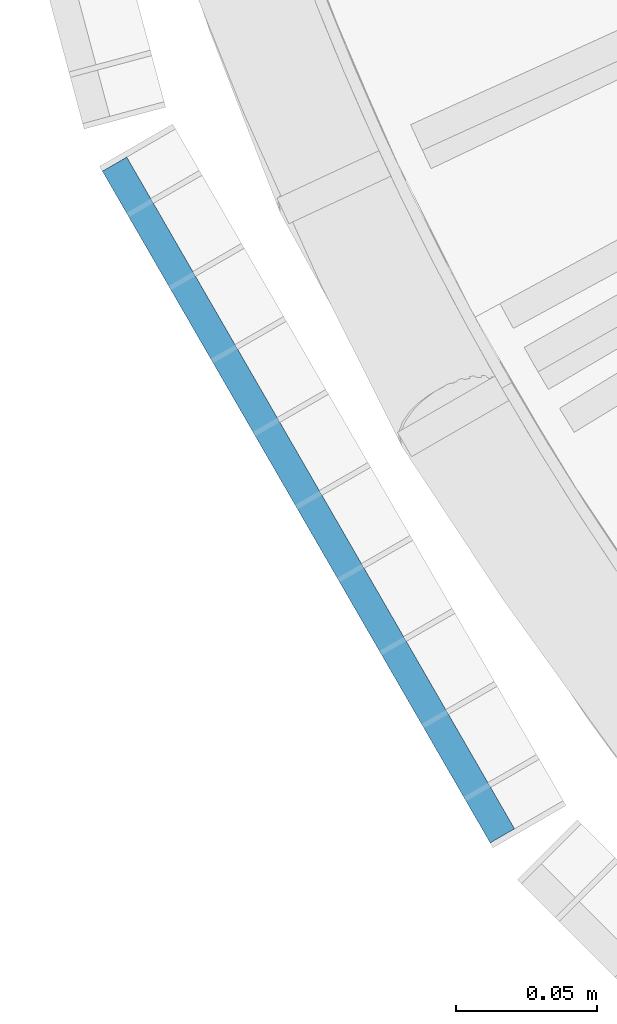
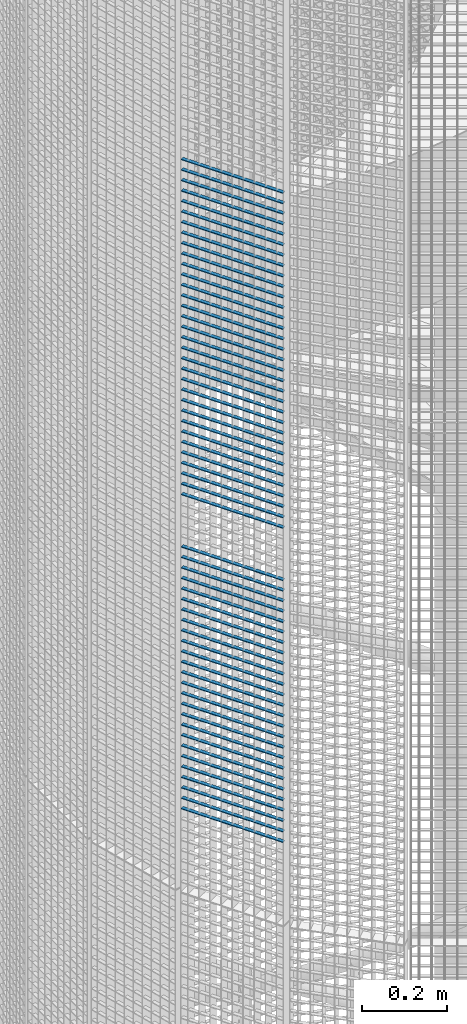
# One storey, part 120 of 1148: 59 beams, 1 element without a shape of its own.
"""IFC2X3 building model written with IfcOpenShell, lengths in millimetres."""

from ifc_helpers import new_model, si_unit, frame, origin_with_axes, origin_2d_with_axis, place, context, subcontext, project, spatial, rectangle, extrude, material, type_object, element, aggregate, save


model = new_model("IFC2X3")

# Units and contexts
model_context = context("Model", 3, precision=1e-05, world=origin_with_axes())
body_context = subcontext(model_context, "Body", "Model", "MODEL_VIEW")
ifc_project = project(units=[si_unit("LENGTHUNIT", "METRE", prefix="MILLI"), si_unit("AREAUNIT", "SQUARE_METRE"), si_unit("VOLUMEUNIT", "CUBIC_METRE"), si_unit("MASSUNIT", "GRAM", prefix="KILO"), si_unit("TIMEUNIT", "SECOND"), si_unit("PLANEANGLEUNIT", "RADIAN"), si_unit("SOLIDANGLEUNIT", "STERADIAN"), si_unit("THERMODYNAMICTEMPERATUREUNIT", "DEGREE_CELSIUS"), si_unit("LUMINOUSINTENSITYUNIT", "LUMEN")], contexts=[model_context])

# Site, building, storey
site_placement = place(None, origin_with_axes())
site = spatial("IfcSite", under=ifc_project, at=site_placement, Name="Undefined", CompositionType="ELEMENT")
building_placement = place(site_placement, origin_with_axes())
building = spatial("IfcBuilding", under=site, at=building_placement, Name="Undefined", CompositionType="ELEMENT")
storey_placement = place(building_placement, origin_with_axes())
storey = spatial("IfcBuildingStorey", under=building, at=storey_placement, Name="Undefined", CompositionType="ELEMENT", Elevation=0.0)

# Assembly, beams
assembly_placement = place(storey_placement, origin_with_axes())
assembly = element("IfcElementAssembly", 1, at=assembly_placement, inside=storey, Name="BORDURE", AssemblyPlace="NOTDEFINED", PredefinedType="NOTDEFINED")
ifc_material = material(Name="STEEL/S235JR")
beam_type = type_object("IfcBeamType", Name="PL2*10", PredefinedType="NOTDEFINED")
beam_1_placement = place(assembly_placement, frame((-1033.29996828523, -437.231955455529, 8100.0), z_axis=(-0.866025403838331, -0.499999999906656, 0.0), x_axis=(0.499999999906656, -0.866025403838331, 0.0)))
beam_1 = element("IfcBeam", 2, at=beam_1_placement, type_object=beam_type, material=ifc_material, Name="ENTRETOISE", context=body_context, shape_type="SweptSolid", body=[
    extrude(rectangle(XDim=2.0, YDim=10.0, at=origin_2d_with_axis()), frame((275.999999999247, 9.09494701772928e-13, 1.53210777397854e-14), z_axis=(-1.0, 0.0, 0.0), x_axis=(0.0, -1.0, 0.0)), (0.0, 0.0, 1.0), 276.0),
])
beam_2_placement = place(assembly_placement, frame((-1033.29996828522, -437.231955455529, 8070.0), z_axis=(-0.866025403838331, -0.499999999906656, 0.0), x_axis=(0.499999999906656, -0.866025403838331, 0.0)))
beam_2 = element("IfcBeam", 3, at=beam_2_placement, type_object=beam_type, material=ifc_material, Name="ENTRETOISE", context=body_context, shape_type="SweptSolid", body=[
    extrude(rectangle(XDim=2.0, YDim=10.0, at=origin_2d_with_axis()), frame((275.999999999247, 9.09494701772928e-13, 1.53210777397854e-14), z_axis=(-1.0, 0.0, 0.0), x_axis=(0.0, -1.0, 0.0)), (0.0, 0.0, 1.0), 276.0),
])
beam_3_placement = place(assembly_placement, frame((-1033.29996828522, -437.231955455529, 8040.0), z_axis=(-0.866025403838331, -0.499999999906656, 0.0), x_axis=(0.499999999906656, -0.866025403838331, 0.0)))
beam_3 = element("IfcBeam", 4, at=beam_3_placement, type_object=beam_type, material=ifc_material, Name="ENTRETOISE", context=body_context, shape_type="SweptSolid", body=[
    extrude(rectangle(XDim=2.0, YDim=10.0, at=origin_2d_with_axis()), frame((275.999999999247, 9.09494701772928e-13, 1.53210777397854e-14), z_axis=(-1.0, 0.0, 0.0), x_axis=(0.0, -1.0, 0.0)), (0.0, 0.0, 1.0), 276.0),
])
beam_4_placement = place(assembly_placement, frame((-1033.29996828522, -437.231955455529, 8010.0), z_axis=(-0.866025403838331, -0.499999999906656, 0.0), x_axis=(0.499999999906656, -0.866025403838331, 0.0)))
beam_4 = element("IfcBeam", 5, at=beam_4_placement, type_object=beam_type, material=ifc_material, Name="ENTRETOISE", context=body_context, shape_type="SweptSolid", body=[
    extrude(rectangle(XDim=2.0, YDim=10.0, at=origin_2d_with_axis()), frame((275.999999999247, 9.09494701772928e-13, 1.53210777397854e-14), z_axis=(-1.0, 0.0, 0.0), x_axis=(0.0, -1.0, 0.0)), (0.0, 0.0, 1.0), 276.0),
])
beam_5_placement = place(assembly_placement, frame((-1033.29996828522, -437.231955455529, 7980.0), z_axis=(-0.866025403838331, -0.499999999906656, 0.0), x_axis=(0.499999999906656, -0.866025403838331, 0.0)))
beam_5 = element("IfcBeam", 6, at=beam_5_placement, type_object=beam_type, material=ifc_material, Name="ENTRETOISE", context=body_context, shape_type="SweptSolid", body=[
    extrude(rectangle(XDim=2.0, YDim=10.0, at=origin_2d_with_axis()), frame((275.999999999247, 9.09494701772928e-13, 1.53210777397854e-14), z_axis=(-1.0, 0.0, 0.0), x_axis=(0.0, -1.0, 0.0)), (0.0, 0.0, 1.0), 276.0),
])
beam_6_placement = place(assembly_placement, frame((-1033.29996828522, -437.231955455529, 7950.0), z_axis=(-0.866025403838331, -0.499999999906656, 0.0), x_axis=(0.499999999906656, -0.866025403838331, 0.0)))
beam_6 = element("IfcBeam", 7, at=beam_6_placement, type_object=beam_type, material=ifc_material, Name="ENTRETOISE", context=body_context, shape_type="SweptSolid", body=[
    extrude(rectangle(XDim=2.0, YDim=10.0, at=origin_2d_with_axis()), frame((275.999999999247, 9.09494701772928e-13, 1.53210777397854e-14), z_axis=(-1.0, 0.0, 0.0), x_axis=(0.0, -1.0, 0.0)), (0.0, 0.0, 1.0), 276.0),
])
beam_7_placement = place(assembly_placement, frame((-1033.29996828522, -437.231955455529, 7920.0), z_axis=(-0.866025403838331, -0.499999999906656, 0.0), x_axis=(0.499999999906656, -0.866025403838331, 0.0)))
beam_7 = element("IfcBeam", 8, at=beam_7_placement, type_object=beam_type, material=ifc_material, Name="ENTRETOISE", context=body_context, shape_type="SweptSolid", body=[
    extrude(rectangle(XDim=2.0, YDim=10.0, at=origin_2d_with_axis()), frame((275.999999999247, 9.09494701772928e-13, 1.53210777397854e-14), z_axis=(-1.0, 0.0, 0.0), x_axis=(0.0, -1.0, 0.0)), (0.0, 0.0, 1.0), 276.0),
])
beam_8_placement = place(assembly_placement, frame((-1033.29996828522, -437.231955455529, 7890.0), z_axis=(-0.866025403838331, -0.499999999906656, 0.0), x_axis=(0.499999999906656, -0.866025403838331, 0.0)))
beam_8 = element("IfcBeam", 9, at=beam_8_placement, type_object=beam_type, material=ifc_material, Name="ENTRETOISE", context=body_context, shape_type="SweptSolid", body=[
    extrude(rectangle(XDim=2.0, YDim=10.0, at=origin_2d_with_axis()), frame((275.999999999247, 9.09494701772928e-13, 1.53210777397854e-14), z_axis=(-1.0, 0.0, 0.0), x_axis=(0.0, -1.0, 0.0)), (0.0, 0.0, 1.0), 276.0),
])
beam_9_placement = place(assembly_placement, frame((-1033.29996828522, -437.23195545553, 7860.0), z_axis=(-0.866025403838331, -0.499999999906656, 0.0), x_axis=(0.499999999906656, -0.866025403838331, 0.0)))
beam_9 = element("IfcBeam", 10, at=beam_9_placement, type_object=beam_type, material=ifc_material, Name="ENTRETOISE", context=body_context, shape_type="SweptSolid", body=[
    extrude(rectangle(XDim=2.0, YDim=10.0, at=origin_2d_with_axis()), frame((275.999999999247, 9.09494701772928e-13, 1.53210777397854e-14), z_axis=(-1.0, 0.0, 0.0), x_axis=(0.0, -1.0, 0.0)), (0.0, 0.0, 1.0), 276.0),
])
beam_10_placement = place(assembly_placement, frame((-1033.29996828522, -437.23195545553, 7830.0), z_axis=(-0.866025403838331, -0.499999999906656, 0.0), x_axis=(0.499999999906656, -0.866025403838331, 0.0)))
beam_10 = element("IfcBeam", 11, at=beam_10_placement, type_object=beam_type, material=ifc_material, Name="ENTRETOISE", context=body_context, shape_type="SweptSolid", body=[
    extrude(rectangle(XDim=2.0, YDim=10.0, at=origin_2d_with_axis()), frame((275.999999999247, 9.09494701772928e-13, 1.53210777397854e-14), z_axis=(-1.0, 0.0, 0.0), x_axis=(0.0, -1.0, 0.0)), (0.0, 0.0, 1.0), 276.0),
])
beam_11_placement = place(assembly_placement, frame((-1033.29996828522, -437.23195545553, 7800.0), z_axis=(-0.866025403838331, -0.499999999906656, 0.0), x_axis=(0.499999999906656, -0.866025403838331, 0.0)))
beam_11 = element("IfcBeam", 12, at=beam_11_placement, type_object=beam_type, material=ifc_material, Name="ENTRETOISE", context=body_context, shape_type="SweptSolid", body=[
    extrude(rectangle(XDim=2.0, YDim=10.0, at=origin_2d_with_axis()), frame((275.999999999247, 9.09494701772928e-13, 1.53210777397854e-14), z_axis=(-1.0, 0.0, 0.0), x_axis=(0.0, -1.0, 0.0)), (0.0, 0.0, 1.0), 276.0),
])
beam_12_placement = place(assembly_placement, frame((-1033.29996828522, -437.23195545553, 7770.0), z_axis=(-0.866025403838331, -0.499999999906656, 0.0), x_axis=(0.499999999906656, -0.866025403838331, 0.0)))
beam_12 = element("IfcBeam", 13, at=beam_12_placement, type_object=beam_type, material=ifc_material, Name="ENTRETOISE", context=body_context, shape_type="SweptSolid", body=[
    extrude(rectangle(XDim=2.0, YDim=10.0, at=origin_2d_with_axis()), frame((275.999999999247, 9.09494701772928e-13, 1.53210777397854e-14), z_axis=(-1.0, 0.0, 0.0), x_axis=(0.0, -1.0, 0.0)), (0.0, 0.0, 1.0), 276.0),
])
beam_13_placement = place(assembly_placement, frame((-1033.29996828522, -437.23195545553, 7740.0), z_axis=(-0.866025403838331, -0.499999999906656, 0.0), x_axis=(0.499999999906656, -0.866025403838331, 0.0)))
beam_13 = element("IfcBeam", 14, at=beam_13_placement, type_object=beam_type, material=ifc_material, Name="ENTRETOISE", context=body_context, shape_type="SweptSolid", body=[
    extrude(rectangle(XDim=2.0, YDim=10.0, at=origin_2d_with_axis()), frame((275.999999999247, 9.09494701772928e-13, 1.53210777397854e-14), z_axis=(-1.0, 0.0, 0.0), x_axis=(0.0, -1.0, 0.0)), (0.0, 0.0, 1.0), 276.0),
])
beam_14_placement = place(assembly_placement, frame((-1033.29996828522, -437.23195545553, 7710.0), z_axis=(-0.866025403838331, -0.499999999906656, 0.0), x_axis=(0.499999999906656, -0.866025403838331, 0.0)))
beam_14 = element("IfcBeam", 15, at=beam_14_placement, type_object=beam_type, material=ifc_material, Name="ENTRETOISE", context=body_context, shape_type="SweptSolid", body=[
    extrude(rectangle(XDim=2.0, YDim=10.0, at=origin_2d_with_axis()), frame((275.999999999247, 9.09494701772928e-13, 1.53210777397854e-14), z_axis=(-1.0, 0.0, 0.0), x_axis=(0.0, -1.0, 0.0)), (0.0, 0.0, 1.0), 276.0),
])
beam_15_placement = place(assembly_placement, frame((-1033.29996828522, -437.23195545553, 7680.0), z_axis=(-0.866025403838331, -0.499999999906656, 0.0), x_axis=(0.499999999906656, -0.866025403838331, 0.0)))
beam_15 = element("IfcBeam", 16, at=beam_15_placement, type_object=beam_type, material=ifc_material, Name="ENTRETOISE", context=body_context, shape_type="SweptSolid", body=[
    extrude(rectangle(XDim=2.0, YDim=10.0, at=origin_2d_with_axis()), frame((275.999999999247, 9.09494701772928e-13, 1.53210777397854e-14), z_axis=(-1.0, 0.0, 0.0), x_axis=(0.0, -1.0, 0.0)), (0.0, 0.0, 1.0), 276.0),
])
beam_16_placement = place(assembly_placement, frame((-1033.29996828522, -437.23195545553, 7650.0), z_axis=(-0.866025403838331, -0.499999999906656, 0.0), x_axis=(0.499999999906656, -0.866025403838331, 0.0)))
beam_16 = element("IfcBeam", 17, at=beam_16_placement, type_object=beam_type, material=ifc_material, Name="ENTRETOISE", context=body_context, shape_type="SweptSolid", body=[
    extrude(rectangle(XDim=2.0, YDim=10.0, at=origin_2d_with_axis()), frame((275.999999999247, 9.09494701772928e-13, 1.53210777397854e-14), z_axis=(-1.0, 0.0, 0.0), x_axis=(0.0, -1.0, 0.0)), (0.0, 0.0, 1.0), 276.0),
])
beam_17_placement = place(assembly_placement, frame((-1033.29996828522, -437.23195545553, 7620.0), z_axis=(-0.866025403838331, -0.499999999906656, 0.0), x_axis=(0.499999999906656, -0.866025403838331, 0.0)))
beam_17 = element("IfcBeam", 18, at=beam_17_placement, type_object=beam_type, material=ifc_material, Name="ENTRETOISE", context=body_context, shape_type="SweptSolid", body=[
    extrude(rectangle(XDim=2.0, YDim=10.0, at=origin_2d_with_axis()), frame((275.999999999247, 9.09494701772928e-13, 1.53210777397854e-14), z_axis=(-1.0, 0.0, 0.0), x_axis=(0.0, -1.0, 0.0)), (0.0, 0.0, 1.0), 276.0),
])
beam_18_placement = place(assembly_placement, frame((-1033.29996828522, -437.23195545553, 7590.0), z_axis=(-0.866025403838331, -0.499999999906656, 0.0), x_axis=(0.499999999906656, -0.866025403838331, 0.0)))
beam_18 = element("IfcBeam", 19, at=beam_18_placement, type_object=beam_type, material=ifc_material, Name="ENTRETOISE", context=body_context, shape_type="SweptSolid", body=[
    extrude(rectangle(XDim=2.0, YDim=10.0, at=origin_2d_with_axis()), frame((275.999999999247, 9.09494701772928e-13, 1.53210777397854e-14), z_axis=(-1.0, 0.0, 0.0), x_axis=(0.0, -1.0, 0.0)), (0.0, 0.0, 1.0), 276.0),
])
beam_19_placement = place(assembly_placement, frame((-1033.29996828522, -437.23195545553, 7560.0), z_axis=(-0.866025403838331, -0.499999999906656, 0.0), x_axis=(0.499999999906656, -0.866025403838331, 0.0)))
beam_19 = element("IfcBeam", 20, at=beam_19_placement, type_object=beam_type, material=ifc_material, Name="ENTRETOISE", context=body_context, shape_type="SweptSolid", body=[
    extrude(rectangle(XDim=2.0, YDim=10.0, at=origin_2d_with_axis()), frame((275.999999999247, 9.09494701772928e-13, 1.53210777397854e-14), z_axis=(-1.0, 0.0, 0.0), x_axis=(0.0, -1.0, 0.0)), (0.0, 0.0, 1.0), 276.0),
])
beam_20_placement = place(assembly_placement, frame((-1033.29996828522, -437.23195545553, 7530.0), z_axis=(-0.866025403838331, -0.499999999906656, 0.0), x_axis=(0.499999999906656, -0.866025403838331, 0.0)))
beam_20 = element("IfcBeam", 21, at=beam_20_placement, type_object=beam_type, material=ifc_material, Name="ENTRETOISE", context=body_context, shape_type="SweptSolid", body=[
    extrude(rectangle(XDim=2.0, YDim=10.0, at=origin_2d_with_axis()), frame((275.999999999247, 9.09494701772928e-13, 1.53210777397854e-14), z_axis=(-1.0, 0.0, 0.0), x_axis=(0.0, -1.0, 0.0)), (0.0, 0.0, 1.0), 276.0),
])
beam_21_placement = place(assembly_placement, frame((-1033.29996828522, -437.231955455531, 7500.0), z_axis=(-0.866025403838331, -0.499999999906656, 0.0), x_axis=(0.499999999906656, -0.866025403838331, 0.0)))
beam_21 = element("IfcBeam", 22, at=beam_21_placement, type_object=beam_type, material=ifc_material, Name="ENTRETOISE", context=body_context, shape_type="SweptSolid", body=[
    extrude(rectangle(XDim=2.0, YDim=10.0, at=origin_2d_with_axis()), frame((275.999999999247, 9.09494701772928e-13, 1.53210777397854e-14), z_axis=(-1.0, 0.0, 0.0), x_axis=(0.0, -1.0, 0.0)), (0.0, 0.0, 1.0), 276.0),
])
beam_22_placement = place(assembly_placement, frame((-1033.29996828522, -437.231955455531, 7470.0), z_axis=(-0.866025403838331, -0.499999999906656, 0.0), x_axis=(0.499999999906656, -0.866025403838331, 0.0)))
beam_22 = element("IfcBeam", 23, at=beam_22_placement, type_object=beam_type, material=ifc_material, Name="ENTRETOISE", context=body_context, shape_type="SweptSolid", body=[
    extrude(rectangle(XDim=2.0, YDim=10.0, at=origin_2d_with_axis()), frame((275.999999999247, 9.09494701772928e-13, 1.53210777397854e-14), z_axis=(-1.0, 0.0, 0.0), x_axis=(0.0, -1.0, 0.0)), (0.0, 0.0, 1.0), 276.0),
])
beam_23_placement = place(assembly_placement, frame((-1033.29996828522, -437.231955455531, 7440.0), z_axis=(-0.866025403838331, -0.499999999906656, 0.0), x_axis=(0.499999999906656, -0.866025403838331, 0.0)))
beam_23 = element("IfcBeam", 24, at=beam_23_placement, type_object=beam_type, material=ifc_material, Name="ENTRETOISE", context=body_context, shape_type="SweptSolid", body=[
    extrude(rectangle(XDim=2.0, YDim=10.0, at=origin_2d_with_axis()), frame((275.999999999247, 9.09494701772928e-13, 1.53210777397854e-14), z_axis=(-1.0, 0.0, 0.0), x_axis=(0.0, -1.0, 0.0)), (0.0, 0.0, 1.0), 276.0),
])
beam_24_placement = place(assembly_placement, frame((-1033.29996828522, -437.231955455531, 7410.0), z_axis=(-0.866025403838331, -0.499999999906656, 0.0), x_axis=(0.499999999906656, -0.866025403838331, 0.0)))
beam_24 = element("IfcBeam", 25, at=beam_24_placement, type_object=beam_type, material=ifc_material, Name="ENTRETOISE", context=body_context, shape_type="SweptSolid", body=[
    extrude(rectangle(XDim=2.0, YDim=10.0, at=origin_2d_with_axis()), frame((275.999999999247, 9.09494701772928e-13, 1.53210777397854e-14), z_axis=(-1.0, 0.0, 0.0), x_axis=(0.0, -1.0, 0.0)), (0.0, 0.0, 1.0), 276.0),
])
beam_25_placement = place(assembly_placement, frame((-1033.29996828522, -437.231955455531, 7380.0), z_axis=(-0.866025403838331, -0.499999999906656, 0.0), x_axis=(0.499999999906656, -0.866025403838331, 0.0)))
beam_25 = element("IfcBeam", 26, at=beam_25_placement, type_object=beam_type, material=ifc_material, Name="ENTRETOISE", context=body_context, shape_type="SweptSolid", body=[
    extrude(rectangle(XDim=2.0, YDim=10.0, at=origin_2d_with_axis()), frame((275.999999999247, 9.09494701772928e-13, 1.53210777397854e-14), z_axis=(-1.0, 0.0, 0.0), x_axis=(0.0, -1.0, 0.0)), (0.0, 0.0, 1.0), 276.0),
])
beam_26_placement = place(assembly_placement, frame((-1033.29996828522, -437.231955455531, 7350.0), z_axis=(-0.866025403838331, -0.499999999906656, 0.0), x_axis=(0.499999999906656, -0.866025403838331, 0.0)))
beam_26 = element("IfcBeam", 27, at=beam_26_placement, type_object=beam_type, material=ifc_material, Name="ENTRETOISE", context=body_context, shape_type="SweptSolid", body=[
    extrude(rectangle(XDim=2.0, YDim=10.0, at=origin_2d_with_axis()), frame((275.999999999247, 9.09494701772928e-13, 1.53210777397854e-14), z_axis=(-1.0, 0.0, 0.0), x_axis=(0.0, -1.0, 0.0)), (0.0, 0.0, 1.0), 276.0),
])
beam_27_placement = place(assembly_placement, frame((-1033.29996828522, -437.231955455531, 7320.0), z_axis=(-0.866025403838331, -0.499999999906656, 0.0), x_axis=(0.499999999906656, -0.866025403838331, 0.0)))
beam_27 = element("IfcBeam", 28, at=beam_27_placement, type_object=beam_type, material=ifc_material, Name="ENTRETOISE", context=body_context, shape_type="SweptSolid", body=[
    extrude(rectangle(XDim=2.0, YDim=10.0, at=origin_2d_with_axis()), frame((275.999999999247, 9.09494701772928e-13, 1.53210777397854e-14), z_axis=(-1.0, 0.0, 0.0), x_axis=(0.0, -1.0, 0.0)), (0.0, 0.0, 1.0), 276.0),
])
beam_28_placement = place(assembly_placement, frame((-1033.29996828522, -437.231955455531, 7290.0), z_axis=(-0.866025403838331, -0.499999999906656, 0.0), x_axis=(0.499999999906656, -0.866025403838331, 0.0)))
beam_28 = element("IfcBeam", 29, at=beam_28_placement, type_object=beam_type, material=ifc_material, Name="ENTRETOISE", context=body_context, shape_type="SweptSolid", body=[
    extrude(rectangle(XDim=2.0, YDim=10.0, at=origin_2d_with_axis()), frame((275.999999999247, 9.09494701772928e-13, 1.53210777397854e-14), z_axis=(-1.0, 0.0, 0.0), x_axis=(0.0, -1.0, 0.0)), (0.0, 0.0, 1.0), 276.0),
])
beam_29_placement = place(assembly_placement, frame((-1033.29996828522, -437.231955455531, 7260.0), z_axis=(-0.866025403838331, -0.499999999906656, 0.0), x_axis=(0.499999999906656, -0.866025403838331, 0.0)))
beam_29 = element("IfcBeam", 30, at=beam_29_placement, type_object=beam_type, material=ifc_material, Name="ENTRETOISE", context=body_context, shape_type="SweptSolid", body=[
    extrude(rectangle(XDim=2.0, YDim=10.0, at=origin_2d_with_axis()), frame((275.999999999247, 9.09494701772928e-13, 1.53210777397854e-14), z_axis=(-1.0, 0.0, 0.0), x_axis=(0.0, -1.0, 0.0)), (0.0, 0.0, 1.0), 276.0),
])
beam_30_placement = place(assembly_placement, frame((-1033.29996828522, -437.231955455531, 7230.0), z_axis=(-0.866025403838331, -0.499999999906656, 0.0), x_axis=(0.499999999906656, -0.866025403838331, 0.0)))
beam_30 = element("IfcBeam", 31, at=beam_30_placement, type_object=beam_type, material=ifc_material, Name="ENTRETOISE", context=body_context, shape_type="SweptSolid", body=[
    extrude(rectangle(XDim=2.0, YDim=10.0, at=origin_2d_with_axis()), frame((275.999999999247, 9.09494701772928e-13, 1.53210777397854e-14), z_axis=(-1.0, 0.0, 0.0), x_axis=(0.0, -1.0, 0.0)), (0.0, 0.0, 1.0), 276.0),
])
beam_31_placement = place(assembly_placement, frame((-1033.29996828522, -437.231955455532, 7200.0), z_axis=(-0.866025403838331, -0.499999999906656, 0.0), x_axis=(0.499999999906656, -0.866025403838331, 0.0)))
beam_31 = element("IfcBeam", 32, at=beam_31_placement, type_object=beam_type, material=ifc_material, Name="ENTRETOISE", context=body_context, shape_type="SweptSolid", body=[
    extrude(rectangle(XDim=2.0, YDim=10.0, at=origin_2d_with_axis()), frame((275.999999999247, 9.09494701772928e-13, 1.53210777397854e-14), z_axis=(-1.0, 0.0, 0.0), x_axis=(0.0, -1.0, 0.0)), (0.0, 0.0, 1.0), 276.0),
])
beam_32_placement = place(assembly_placement, frame((-1033.29996828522, -437.231955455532, 7170.0), z_axis=(-0.866025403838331, -0.499999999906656, 0.0), x_axis=(0.499999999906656, -0.866025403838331, 0.0)))
beam_32 = element("IfcBeam", 33, at=beam_32_placement, type_object=beam_type, material=ifc_material, Name="ENTRETOISE", context=body_context, shape_type="SweptSolid", body=[
    extrude(rectangle(XDim=2.0, YDim=10.0, at=origin_2d_with_axis()), frame((275.999999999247, 9.09494701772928e-13, 1.53210777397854e-14), z_axis=(-1.0, 0.0, 0.0), x_axis=(0.0, -1.0, 0.0)), (0.0, 0.0, 1.0), 276.0),
])
beam_33_placement = place(assembly_placement, frame((-1033.29996828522, -437.231955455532, 7140.0), z_axis=(-0.866025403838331, -0.499999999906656, 0.0), x_axis=(0.499999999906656, -0.866025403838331, 0.0)))
beam_33 = element("IfcBeam", 34, at=beam_33_placement, type_object=beam_type, material=ifc_material, Name="ENTRETOISE", context=body_context, shape_type="SweptSolid", body=[
    extrude(rectangle(XDim=2.0, YDim=10.0, at=origin_2d_with_axis()), frame((275.999999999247, 9.09494701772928e-13, 1.53210777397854e-14), z_axis=(-1.0, 0.0, 0.0), x_axis=(0.0, -1.0, 0.0)), (0.0, 0.0, 1.0), 276.0),
])
beam_34_placement = place(assembly_placement, frame((-1033.29996828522, -437.231955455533, 6720.0), z_axis=(-0.866025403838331, -0.499999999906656, 0.0), x_axis=(0.499999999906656, -0.866025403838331, 0.0)))
beam_34 = element("IfcBeam", 35, at=beam_34_placement, type_object=beam_type, material=ifc_material, Name="ENTRETOISE", context=body_context, shape_type="SweptSolid", body=[
    extrude(rectangle(XDim=2.0, YDim=10.0, at=origin_2d_with_axis()), frame((275.999999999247, 9.09494701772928e-13, 1.53210777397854e-14), z_axis=(-1.0, 0.0, 0.0), x_axis=(0.0, -1.0, 0.0)), (0.0, 0.0, 1.0), 276.0),
])
beam_35_placement = place(assembly_placement, frame((-1033.29996828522, -437.231955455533, 6690.0), z_axis=(-0.866025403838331, -0.499999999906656, 0.0), x_axis=(0.499999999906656, -0.866025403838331, 0.0)))
beam_35 = element("IfcBeam", 36, at=beam_35_placement, type_object=beam_type, material=ifc_material, Name="ENTRETOISE", context=body_context, shape_type="SweptSolid", body=[
    extrude(rectangle(XDim=2.0, YDim=10.0, at=origin_2d_with_axis()), frame((275.999999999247, 9.09494701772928e-13, 1.53210777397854e-14), z_axis=(-1.0, 0.0, 0.0), x_axis=(0.0, -1.0, 0.0)), (0.0, 0.0, 1.0), 276.0),
])
beam_36_placement = place(assembly_placement, frame((-1033.29996828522, -437.231955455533, 6750.0), z_axis=(-0.866025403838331, -0.499999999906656, 0.0), x_axis=(0.499999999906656, -0.866025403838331, 0.0)))
beam_36 = element("IfcBeam", 37, at=beam_36_placement, type_object=beam_type, material=ifc_material, Name="ENTRETOISE", context=body_context, shape_type="SweptSolid", body=[
    extrude(rectangle(XDim=2.0, YDim=10.0, at=origin_2d_with_axis()), frame((275.999999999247, 9.09494701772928e-13, 1.53210777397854e-14), z_axis=(-1.0, 0.0, 0.0), x_axis=(0.0, -1.0, 0.0)), (0.0, 0.0, 1.0), 276.0),
])
beam_37_placement = place(assembly_placement, frame((-1033.29996828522, -437.231955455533, 6660.0), z_axis=(-0.866025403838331, -0.499999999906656, 0.0), x_axis=(0.499999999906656, -0.866025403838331, 0.0)))
beam_37 = element("IfcBeam", 38, at=beam_37_placement, type_object=beam_type, material=ifc_material, Name="ENTRETOISE", context=body_context, shape_type="SweptSolid", body=[
    extrude(rectangle(XDim=2.0, YDim=10.0, at=origin_2d_with_axis()), frame((275.999999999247, 9.09494701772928e-13, 1.53210777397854e-14), z_axis=(-1.0, 0.0, 0.0), x_axis=(0.0, -1.0, 0.0)), (0.0, 0.0, 1.0), 276.0),
])
beam_38_placement = place(assembly_placement, frame((-1033.29996828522, -437.231955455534, 6630.0), z_axis=(-0.866025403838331, -0.499999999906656, 0.0), x_axis=(0.499999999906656, -0.866025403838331, 0.0)))
beam_38 = element("IfcBeam", 39, at=beam_38_placement, type_object=beam_type, material=ifc_material, Name="ENTRETOISE", context=body_context, shape_type="SweptSolid", body=[
    extrude(rectangle(XDim=2.0, YDim=10.0, at=origin_2d_with_axis()), frame((275.999999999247, 9.09494701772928e-13, 1.53210777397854e-14), z_axis=(-1.0, 0.0, 0.0), x_axis=(0.0, -1.0, 0.0)), (0.0, 0.0, 1.0), 276.0),
])
beam_39_placement = place(assembly_placement, frame((-1033.29996828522, -437.231955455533, 6780.0), z_axis=(-0.866025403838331, -0.499999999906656, 0.0), x_axis=(0.499999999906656, -0.866025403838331, 0.0)))
beam_39 = element("IfcBeam", 40, at=beam_39_placement, type_object=beam_type, material=ifc_material, Name="ENTRETOISE", context=body_context, shape_type="SweptSolid", body=[
    extrude(rectangle(XDim=2.0, YDim=10.0, at=origin_2d_with_axis()), frame((275.999999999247, 9.09494701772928e-13, 1.53210777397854e-14), z_axis=(-1.0, 0.0, 0.0), x_axis=(0.0, -1.0, 0.0)), (0.0, 0.0, 1.0), 276.0),
])
beam_40_placement = place(assembly_placement, frame((-1033.29996828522, -437.231955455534, 6600.0), z_axis=(-0.866025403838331, -0.499999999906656, 0.0), x_axis=(0.499999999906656, -0.866025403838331, 0.0)))
beam_40 = element("IfcBeam", 41, at=beam_40_placement, type_object=beam_type, material=ifc_material, Name="ENTRETOISE", context=body_context, shape_type="SweptSolid", body=[
    extrude(rectangle(XDim=2.0, YDim=10.0, at=origin_2d_with_axis()), frame((275.999999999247, 9.09494701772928e-13, 1.53210777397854e-14), z_axis=(-1.0, 0.0, 0.0), x_axis=(0.0, -1.0, 0.0)), (0.0, 0.0, 1.0), 276.0),
])
beam_41_placement = place(assembly_placement, frame((-1033.29996828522, -437.231955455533, 6810.0), z_axis=(-0.866025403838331, -0.499999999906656, 0.0), x_axis=(0.499999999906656, -0.866025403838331, 0.0)))
beam_41 = element("IfcBeam", 42, at=beam_41_placement, type_object=beam_type, material=ifc_material, Name="ENTRETOISE", context=body_context, shape_type="SweptSolid", body=[
    extrude(rectangle(XDim=2.0, YDim=10.0, at=origin_2d_with_axis()), frame((275.999999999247, 9.09494701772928e-13, 1.53210777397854e-14), z_axis=(-1.0, 0.0, 0.0), x_axis=(0.0, -1.0, 0.0)), (0.0, 0.0, 1.0), 276.0),
])
beam_42_placement = place(assembly_placement, frame((-1033.29996828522, -437.231955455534, 6570.0), z_axis=(-0.866025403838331, -0.499999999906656, 0.0), x_axis=(0.499999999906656, -0.866025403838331, 0.0)))
beam_42 = element("IfcBeam", 43, at=beam_42_placement, type_object=beam_type, material=ifc_material, Name="ENTRETOISE", context=body_context, shape_type="SweptSolid", body=[
    extrude(rectangle(XDim=2.0, YDim=10.0, at=origin_2d_with_axis()), frame((275.999999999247, 9.09494701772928e-13, 1.53210777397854e-14), z_axis=(-1.0, 0.0, 0.0), x_axis=(0.0, -1.0, 0.0)), (0.0, 0.0, 1.0), 276.0),
])
beam_43_placement = place(assembly_placement, frame((-1033.29996828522, -437.231955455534, 6540.0), z_axis=(-0.866025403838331, -0.499999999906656, 0.0), x_axis=(0.499999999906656, -0.866025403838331, 0.0)))
beam_43 = element("IfcBeam", 44, at=beam_43_placement, type_object=beam_type, material=ifc_material, Name="ENTRETOISE", context=body_context, shape_type="SweptSolid", body=[
    extrude(rectangle(XDim=2.0, YDim=10.0, at=origin_2d_with_axis()), frame((275.999999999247, 9.09494701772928e-13, 1.53210777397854e-14), z_axis=(-1.0, 0.0, 0.0), x_axis=(0.0, -1.0, 0.0)), (0.0, 0.0, 1.0), 276.0),
])
beam_44_placement = place(assembly_placement, frame((-1033.29996828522, -437.231955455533, 6840.0), z_axis=(-0.866025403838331, -0.499999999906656, 0.0), x_axis=(0.499999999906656, -0.866025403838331, 0.0)))
beam_44 = element("IfcBeam", 45, at=beam_44_placement, type_object=beam_type, material=ifc_material, Name="ENTRETOISE", context=body_context, shape_type="SweptSolid", body=[
    extrude(rectangle(XDim=2.0, YDim=10.0, at=origin_2d_with_axis()), frame((275.999999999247, 9.09494701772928e-13, 1.53210777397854e-14), z_axis=(-1.0, 0.0, 0.0), x_axis=(0.0, -1.0, 0.0)), (0.0, 0.0, 1.0), 276.0),
])
beam_45_placement = place(assembly_placement, frame((-1033.29996828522, -437.231955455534, 6510.0), z_axis=(-0.866025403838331, -0.499999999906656, 0.0), x_axis=(0.499999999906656, -0.866025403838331, 0.0)))
beam_45 = element("IfcBeam", 46, at=beam_45_placement, type_object=beam_type, material=ifc_material, Name="ENTRETOISE", context=body_context, shape_type="SweptSolid", body=[
    extrude(rectangle(XDim=2.0, YDim=10.0, at=origin_2d_with_axis()), frame((275.999999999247, 9.09494701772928e-13, 1.53210777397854e-14), z_axis=(-1.0, 0.0, 0.0), x_axis=(0.0, -1.0, 0.0)), (0.0, 0.0, 1.0), 276.0),
])
beam_46_placement = place(assembly_placement, frame((-1033.29996828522, -437.231955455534, 6480.0), z_axis=(-0.866025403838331, -0.499999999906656, 0.0), x_axis=(0.499999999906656, -0.866025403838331, 0.0)))
beam_46 = element("IfcBeam", 47, at=beam_46_placement, type_object=beam_type, material=ifc_material, Name="ENTRETOISE", context=body_context, shape_type="SweptSolid", body=[
    extrude(rectangle(XDim=2.0, YDim=10.0, at=origin_2d_with_axis()), frame((275.999999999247, 9.09494701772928e-13, 1.53210777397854e-14), z_axis=(-1.0, 0.0, 0.0), x_axis=(0.0, -1.0, 0.0)), (0.0, 0.0, 1.0), 276.0),
])
beam_47_placement = place(assembly_placement, frame((-1033.29996828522, -437.231955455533, 6870.0), z_axis=(-0.866025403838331, -0.499999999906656, 0.0), x_axis=(0.499999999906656, -0.866025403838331, 0.0)))
beam_47 = element("IfcBeam", 48, at=beam_47_placement, type_object=beam_type, material=ifc_material, Name="ENTRETOISE", context=body_context, shape_type="SweptSolid", body=[
    extrude(rectangle(XDim=2.0, YDim=10.0, at=origin_2d_with_axis()), frame((275.999999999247, 9.09494701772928e-13, 1.53210777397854e-14), z_axis=(-1.0, 0.0, 0.0), x_axis=(0.0, -1.0, 0.0)), (0.0, 0.0, 1.0), 276.0),
])
beam_48_placement = place(assembly_placement, frame((-1033.29996828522, -437.231955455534, 6450.0), z_axis=(-0.866025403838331, -0.499999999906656, 0.0), x_axis=(0.499999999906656, -0.866025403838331, 0.0)))
beam_48 = element("IfcBeam", 49, at=beam_48_placement, type_object=beam_type, material=ifc_material, Name="ENTRETOISE", context=body_context, shape_type="SweptSolid", body=[
    extrude(rectangle(XDim=2.0, YDim=10.0, at=origin_2d_with_axis()), frame((275.999999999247, 9.09494701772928e-13, 1.53210777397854e-14), z_axis=(-1.0, 0.0, 0.0), x_axis=(0.0, -1.0, 0.0)), (0.0, 0.0, 1.0), 276.0),
])
beam_49_placement = place(assembly_placement, frame((-1033.29996828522, -437.231955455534, 6420.0), z_axis=(-0.866025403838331, -0.499999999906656, 0.0), x_axis=(0.499999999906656, -0.866025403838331, 0.0)))
beam_49 = element("IfcBeam", 50, at=beam_49_placement, type_object=beam_type, material=ifc_material, Name="ENTRETOISE", context=body_context, shape_type="SweptSolid", body=[
    extrude(rectangle(XDim=2.0, YDim=10.0, at=origin_2d_with_axis()), frame((275.999999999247, 9.09494701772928e-13, 1.53210777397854e-14), z_axis=(-1.0, 0.0, 0.0), x_axis=(0.0, -1.0, 0.0)), (0.0, 0.0, 1.0), 276.0),
])
beam_50_placement = place(assembly_placement, frame((-1033.29996828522, -437.231955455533, 6900.0), z_axis=(-0.866025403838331, -0.499999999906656, 0.0), x_axis=(0.499999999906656, -0.866025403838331, 0.0)))
beam_50 = element("IfcBeam", 51, at=beam_50_placement, type_object=beam_type, material=ifc_material, Name="ENTRETOISE", context=body_context, shape_type="SweptSolid", body=[
    extrude(rectangle(XDim=2.0, YDim=10.0, at=origin_2d_with_axis()), frame((275.999999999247, 9.09494701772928e-13, 1.53210777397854e-14), z_axis=(-1.0, 0.0, 0.0), x_axis=(0.0, -1.0, 0.0)), (0.0, 0.0, 1.0), 276.0),
])
beam_51_placement = place(assembly_placement, frame((-1033.29996828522, -437.231955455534, 6390.0), z_axis=(-0.866025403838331, -0.499999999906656, 0.0), x_axis=(0.499999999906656, -0.866025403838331, 0.0)))
beam_51 = element("IfcBeam", 52, at=beam_51_placement, type_object=beam_type, material=ifc_material, Name="ENTRETOISE", context=body_context, shape_type="SweptSolid", body=[
    extrude(rectangle(XDim=2.0, YDim=10.0, at=origin_2d_with_axis()), frame((275.999999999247, 9.09494701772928e-13, 1.53210777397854e-14), z_axis=(-1.0, 0.0, 0.0), x_axis=(0.0, -1.0, 0.0)), (0.0, 0.0, 1.0), 276.0),
])
beam_52_placement = place(assembly_placement, frame((-1033.29996828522, -437.231955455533, 6930.0), z_axis=(-0.866025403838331, -0.499999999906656, 0.0), x_axis=(0.499999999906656, -0.866025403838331, 0.0)))
beam_52 = element("IfcBeam", 53, at=beam_52_placement, type_object=beam_type, material=ifc_material, Name="ENTRETOISE", context=body_context, shape_type="SweptSolid", body=[
    extrude(rectangle(XDim=2.0, YDim=10.0, at=origin_2d_with_axis()), frame((275.999999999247, 9.09494701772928e-13, 1.53210777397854e-14), z_axis=(-1.0, 0.0, 0.0), x_axis=(0.0, -1.0, 0.0)), (0.0, 0.0, 1.0), 276.0),
])
beam_53_placement = place(assembly_placement, frame((-1033.29996828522, -437.231955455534, 6360.0), z_axis=(-0.866025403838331, -0.499999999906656, 0.0), x_axis=(0.499999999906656, -0.866025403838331, 0.0)))
beam_53 = element("IfcBeam", 54, at=beam_53_placement, type_object=beam_type, material=ifc_material, Name="ENTRETOISE", context=body_context, shape_type="SweptSolid", body=[
    extrude(rectangle(XDim=2.0, YDim=10.0, at=origin_2d_with_axis()), frame((275.999999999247, 9.09494701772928e-13, 1.53210777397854e-14), z_axis=(-1.0, 0.0, 0.0), x_axis=(0.0, -1.0, 0.0)), (0.0, 0.0, 1.0), 276.0),
])
beam_54_placement = place(assembly_placement, frame((-1033.29996828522, -437.231955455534, 6330.0), z_axis=(-0.866025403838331, -0.499999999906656, 0.0), x_axis=(0.499999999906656, -0.866025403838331, 0.0)))
beam_54 = element("IfcBeam", 55, at=beam_54_placement, type_object=beam_type, material=ifc_material, Name="ENTRETOISE", context=body_context, shape_type="SweptSolid", body=[
    extrude(rectangle(XDim=2.0, YDim=10.0, at=origin_2d_with_axis()), frame((275.999999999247, 9.09494701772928e-13, 1.53210777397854e-14), z_axis=(-1.0, 0.0, 0.0), x_axis=(0.0, -1.0, 0.0)), (0.0, 0.0, 1.0), 276.0),
])
beam_55_placement = place(assembly_placement, frame((-1033.29996828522, -437.231955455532, 6960.0), z_axis=(-0.866025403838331, -0.499999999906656, 0.0), x_axis=(0.499999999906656, -0.866025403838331, 0.0)))
beam_55 = element("IfcBeam", 56, at=beam_55_placement, type_object=beam_type, material=ifc_material, Name="ENTRETOISE", context=body_context, shape_type="SweptSolid", body=[
    extrude(rectangle(XDim=2.0, YDim=10.0, at=origin_2d_with_axis()), frame((275.999999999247, 9.09494701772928e-13, 1.53210777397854e-14), z_axis=(-1.0, 0.0, 0.0), x_axis=(0.0, -1.0, 0.0)), (0.0, 0.0, 1.0), 276.0),
])
beam_56_placement = place(assembly_placement, frame((-1033.29996828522, -437.231955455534, 6300.0), z_axis=(-0.866025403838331, -0.499999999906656, 0.0), x_axis=(0.499999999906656, -0.866025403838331, 0.0)))
beam_56 = element("IfcBeam", 57, at=beam_56_placement, type_object=beam_type, material=ifc_material, Name="ENTRETOISE", context=body_context, shape_type="SweptSolid", body=[
    extrude(rectangle(XDim=2.0, YDim=10.0, at=origin_2d_with_axis()), frame((275.999999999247, 9.09494701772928e-13, 1.53210777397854e-14), z_axis=(-1.0, 0.0, 0.0), x_axis=(0.0, -1.0, 0.0)), (0.0, 0.0, 1.0), 276.0),
])
beam_57_placement = place(assembly_placement, frame((-1033.29996828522, -437.231955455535, 6270.0), z_axis=(-0.866025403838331, -0.499999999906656, 0.0), x_axis=(0.499999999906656, -0.866025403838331, 0.0)))
beam_57 = element("IfcBeam", 58, at=beam_57_placement, type_object=beam_type, material=ifc_material, Name="ENTRETOISE", context=body_context, shape_type="SweptSolid", body=[
    extrude(rectangle(XDim=2.0, YDim=10.0, at=origin_2d_with_axis()), frame((275.999999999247, 9.09494701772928e-13, 1.53210777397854e-14), z_axis=(-1.0, 0.0, 0.0), x_axis=(0.0, -1.0, 0.0)), (0.0, 0.0, 1.0), 276.0),
])
beam_58_placement = place(assembly_placement, frame((-1033.29996828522, -437.231955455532, 6990.0), z_axis=(-0.866025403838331, -0.499999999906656, 0.0), x_axis=(0.499999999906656, -0.866025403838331, 0.0)))
beam_58 = element("IfcBeam", 59, at=beam_58_placement, type_object=beam_type, material=ifc_material, Name="ENTRETOISE", context=body_context, shape_type="SweptSolid", body=[
    extrude(rectangle(XDim=2.0, YDim=10.0, at=origin_2d_with_axis()), frame((275.999999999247, 9.09494701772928e-13, 1.53210777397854e-14), z_axis=(-1.0, 0.0, 0.0), x_axis=(0.0, -1.0, 0.0)), (0.0, 0.0, 1.0), 276.0),
])
beam_59_placement = place(assembly_placement, frame((-1033.29996828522, -437.231955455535, 6240.0), z_axis=(-0.866025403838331, -0.499999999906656, 0.0), x_axis=(0.499999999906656, -0.866025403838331, 0.0)))
beam_59 = element("IfcBeam", 60, at=beam_59_placement, type_object=beam_type, material=ifc_material, Name="ENTRETOISE", context=body_context, shape_type="SweptSolid", body=[
    extrude(rectangle(XDim=2.0, YDim=10.0, at=origin_2d_with_axis()), frame((275.999999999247, 9.09494701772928e-13, 1.53210777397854e-14), z_axis=(-1.0, 0.0, 0.0), x_axis=(0.0, -1.0, 0.0)), (0.0, 0.0, 1.0), 276.0),
])
aggregate(assembly, [beam_1, beam_2, beam_3, beam_4, beam_5, beam_6, beam_7, beam_8, beam_9, beam_10, beam_11, beam_12, beam_13, beam_14, beam_15, beam_16, beam_17, beam_18, beam_19, beam_20, beam_21, beam_22, beam_23, beam_24, beam_25, beam_26, beam_27, beam_28, beam_29, beam_30, beam_31, beam_32, beam_33, beam_34, beam_35, beam_36, beam_37, beam_38, beam_39, beam_40, beam_41, beam_42, beam_43, beam_44, beam_45, beam_46, beam_47, beam_48, beam_49, beam_50, beam_51, beam_52, beam_53, beam_54, beam_55, beam_56, beam_57, beam_58, beam_59])

save(model, "model.ifc")
